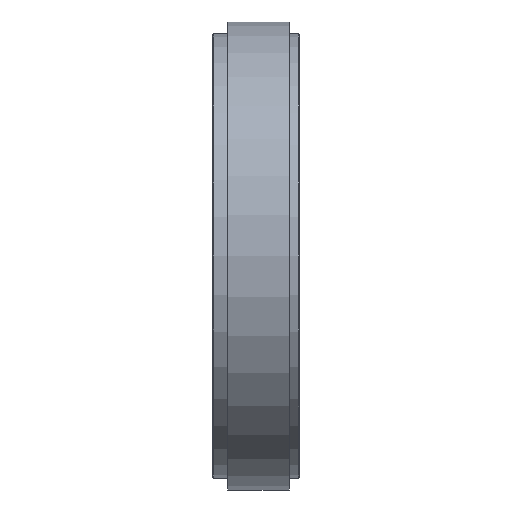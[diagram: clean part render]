
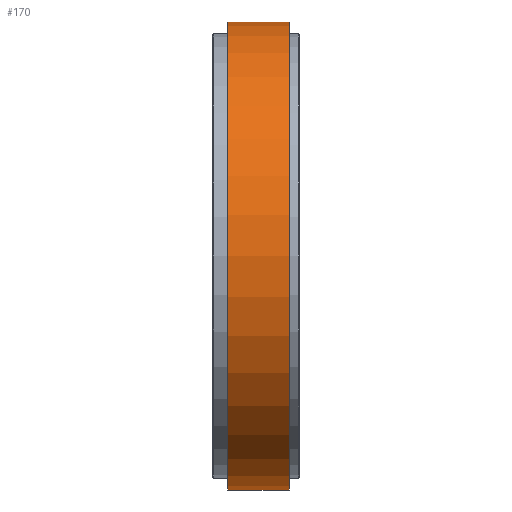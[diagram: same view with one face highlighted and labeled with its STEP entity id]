
A CAD part, front view. The second image highlights one B-rep face of the part: STEP entity #170.
In plain terms, the highlighted cylindrical face has radius 190 mm (diameter 380 mm), a full revolution.
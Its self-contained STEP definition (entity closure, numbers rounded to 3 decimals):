
#170=ADVANCED_FACE('',(#515,#517),#519,.T.);
#515=FACE_OUTER_BOUND('',#516,.T.);
#516=EDGE_LOOP('',(#745));
#517=FACE_OUTER_BOUND('',#518,.T.);
#518=EDGE_LOOP('',(#746));
#519=CYLINDRICAL_SURFACE('',#520,190.);
#520=AXIS2_PLACEMENT_3D('',#521,#522,#523);
#521=CARTESIAN_POINT('',(-8.,0.,0.));
#522=DIRECTION('',(-1.,0.,0.));
#523=DIRECTION('',(0.,0.,1.));
#745=ORIENTED_EDGE('',*,*,#785,.T.);
#746=ORIENTED_EDGE('',*,*,#799,.F.);
#785=EDGE_CURVE('',#830,#830,#831,.T.);
#799=EDGE_CURVE('',#858,#858,#859,.T.);
#830=VERTEX_POINT('',#920);
#831=CIRCLE('',#921,190.);
#858=VERTEX_POINT('',#990);
#859=CIRCLE('',#991,190.);
#920=CARTESIAN_POINT('',(-8.,0.,190.));
#921=AXIS2_PLACEMENT_3D('',#922,#923,#924);
#922=CARTESIAN_POINT('',(-8.,0.,0.));
#923=DIRECTION('',(-1.,0.,0.));
#924=DIRECTION('',(0.,0.,1.));
#990=CARTESIAN_POINT('',(-58.,0.,190.));
#991=AXIS2_PLACEMENT_3D('',#992,#993,#994);
#992=CARTESIAN_POINT('',(-58.,0.,0.));
#993=DIRECTION('',(-1.,0.,0.));
#994=DIRECTION('',(0.,0.,1.));
